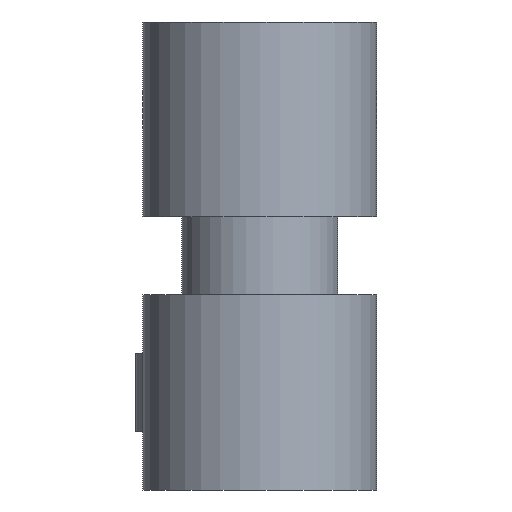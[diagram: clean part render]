
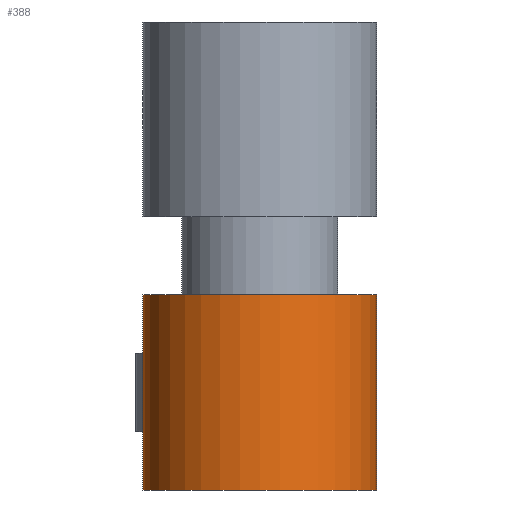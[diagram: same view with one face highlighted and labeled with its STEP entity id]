
A CAD part, left-side view. The second image highlights one B-rep face of the part: STEP entity #388.
In plain terms, the highlighted cylindrical face has radius 15 mm (diameter 30 mm), a full revolution.
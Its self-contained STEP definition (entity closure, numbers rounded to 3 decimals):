
#388 = ADVANCED_FACE('',(#389),#416,.T.);
#389 = FACE_BOUND('',#390,.F.);
#390 = EDGE_LOOP('',(#391,#401,#408,#409));
#391 = ORIENTED_EDGE('',*,*,#392,.T.);
#392 = EDGE_CURVE('',#393,#395,#397,.T.);
#393 = VERTEX_POINT('',#394);
#394 = CARTESIAN_POINT('',(30.,15.,0.));
#395 = VERTEX_POINT('',#396);
#396 = CARTESIAN_POINT('',(30.,15.,25.));
#397 = LINE('',#398,#399);
#398 = CARTESIAN_POINT('',(30.,15.,0.));
#399 = VECTOR('',#400,1.);
#400 = DIRECTION('',(0.,0.,1.));
#401 = ORIENTED_EDGE('',*,*,#402,.T.);
#402 = EDGE_CURVE('',#395,#395,#403,.T.);
#403 = CIRCLE('',#404,15.);
#404 = AXIS2_PLACEMENT_3D('',#405,#406,#407);
#405 = CARTESIAN_POINT('',(15.,15.,25.));
#406 = DIRECTION('',(0.,0.,1.));
#407 = DIRECTION('',(1.,0.,0.));
#408 = ORIENTED_EDGE('',*,*,#392,.F.);
#409 = ORIENTED_EDGE('',*,*,#410,.F.);
#410 = EDGE_CURVE('',#393,#393,#411,.T.);
#411 = CIRCLE('',#412,15.);
#412 = AXIS2_PLACEMENT_3D('',#413,#414,#415);
#413 = CARTESIAN_POINT('',(15.,15.,0.));
#414 = DIRECTION('',(0.,0.,1.));
#415 = DIRECTION('',(1.,0.,0.));
#416 = CYLINDRICAL_SURFACE('',#417,15.);
#417 = AXIS2_PLACEMENT_3D('',#418,#419,#420);
#418 = CARTESIAN_POINT('',(15.,15.,0.));
#419 = DIRECTION('',(-0.,-0.,-1.));
#420 = DIRECTION('',(1.,0.,0.));
